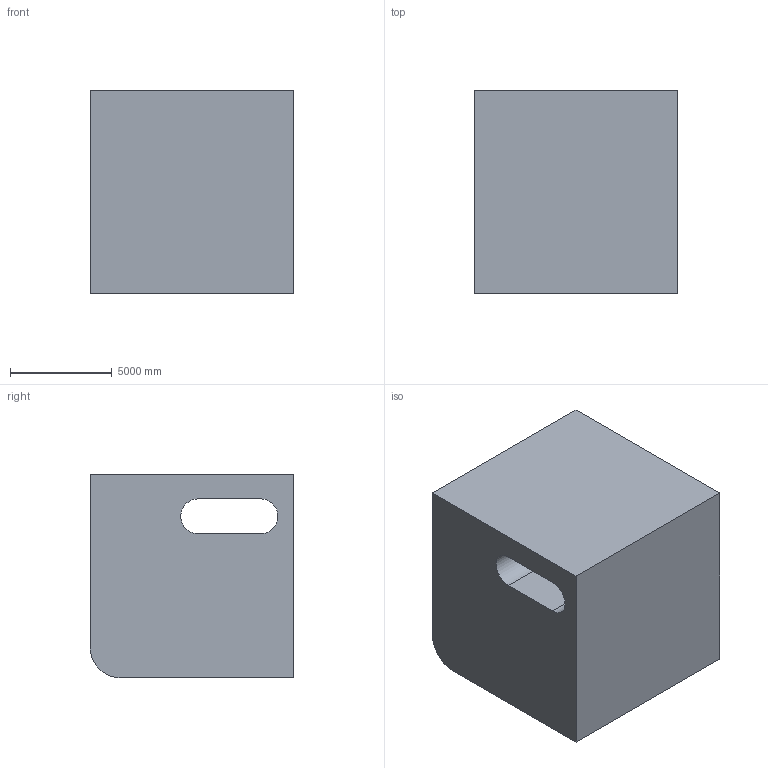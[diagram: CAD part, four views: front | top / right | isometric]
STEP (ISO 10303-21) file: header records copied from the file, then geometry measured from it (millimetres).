
FILE_DESCRIPTION (( 'STEP AP203' ), '1' );
FILE_NAME ('184.STEP', '2022-07-28T13:50:24', ( 'user' ), ( '' ), 'SwSTEP 2.0', 'SolidWorks 2021', '' );
FILE_SCHEMA (( 'CONFIG_CONTROL_DESIGN' ));
Length unit declared in the file: centimetre
Products named in the file (1): 184
Bounding box: 10000 x 10000 x 10000 mm (x, y, z)
Volume: 919688279642.9 mm3; surface area: 692876495.3 mm2
Topology: 1 solids, 1 shells, 11 faces, 27 edges, 18 vertices
Faces by surface type: plane 8, cylinder 3
Entity records: 408 total; most frequent: CARTESIAN_POINT 57, DIRECTION 57, ORIENTED_EDGE 54, EDGE_CURVE 27, LINE 21, VECTOR 21, AXIS2_PLACEMENT_3D 18, VERTEX_POINT 18
